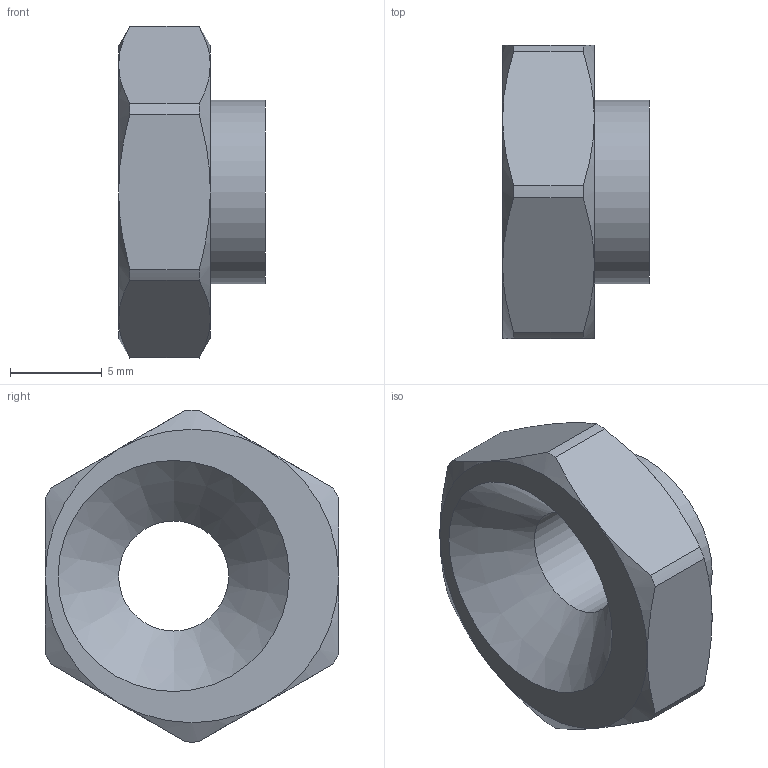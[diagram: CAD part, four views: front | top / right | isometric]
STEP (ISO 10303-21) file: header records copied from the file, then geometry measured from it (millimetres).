
FILE_DESCRIPTION(/* description */ ('STEP AP214'),/* implementation_level */ '2;1');
FILE_NAME(/* name */ 'Mounting Accessory GN 753.2-6-10-5-E-NI',/* time_stamp */ '2024-12-09T14:00:29+01:00',/* author */ ('License CC BY-ND 4.0'),/* organization */ ('CADENAS'),/* preprocessor_version */ 'ST-DEVELOPER v19.3',/* originating_system */ 'PARTsolutions',/* authorisation */ ' ');
FILE_SCHEMA (('AUTOMOTIVE_DESIGN {1 0 10303 214 3 1 1}'));
Length unit declared in the file: millimetre
Products named in the file (1): Mounting Accessory GN 753.2-6-10-5-E-NI
Bounding box: 8 x 16 x 18.1 mm (x, y, z)
Volume: 967.2 mm3; surface area: 863.2 mm2
Topology: 1 solids, 1 shells, 30 faces, 68 edges, 41 vertices
Faces by surface type: cone 13, plane 9, cylinder 8
Full cylindrical faces by diameter (mm): 6 x1, 10 x1
Entity records: 880 total; most frequent: CARTESIAN_POINT 209, DIRECTION 132, ORIENTED_EDGE 130, EDGE_CURVE 65, AXIS2_PLACEMENT_3D 60, VERTEX_POINT 41, EDGE_LOOP 36, FACE_BOUND 36
